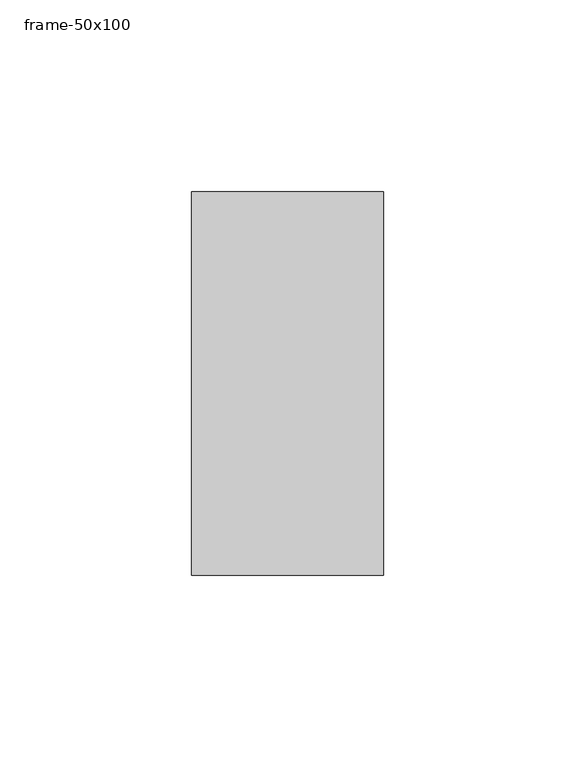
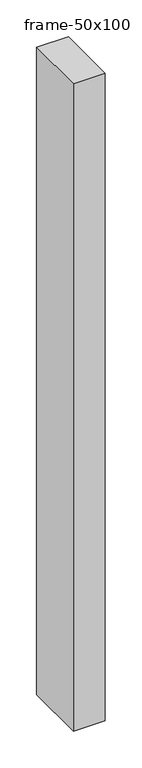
"""IFC4 building model written with IfcOpenShell, lengths in millimetres: member geometry, 長方形マリオン : frame-50x100."""

from ifc_helpers import new_model, si_unit, frame, origin, place, context, project, spatial, polyline, outline, extrude, source, transform, mapped, element, save


def frame_50x100_8322f18e(model_context):
    return source(origin(), model_context, "Body", "SweptSolid", [
        extrude(outline(polyline([(0.0, 50.0), (0.0, -50.0), (-50.0, -50.0), (-50.0, 50.0), (0.0, 50.0)])), frame((0.0, 0.0, -1075.0), z_axis=(0.0, 0.0, 1.0), x_axis=(1.0, 0.0, 0.0)), (0.0, 0.0, 1.0), 1075.0),
    ])


if __name__ == "__main__":
    model = new_model("IFC4")
    model_context = context("Model", 3, world=origin())
    ifc_project = project(units=[si_unit("LENGTHUNIT", "METRE", prefix="MILLI")], contexts=[model_context])
    site = spatial("IfcSite", under=ifc_project)
    building = spatial("IfcBuilding", under=site)
    placement = place(None, origin())
    frame_50x100_shape = frame_50x100_8322f18e(model_context)
    element("IfcMember", 1, ObjectType="長方形マリオン : frame-50x100", at=placement, inside=building, context=model_context, shape_type="MappedRepresentation", body=[
        mapped(frame_50x100_shape, transform((0.0, 0.0, 0.0), x_axis=(1.0, 0.0, 0.0), y_axis=(0.0, 1.0, 0.0), z_axis=(0.0, 0.0, 1.0))),
    ])
    save(model, "model.ifc")
